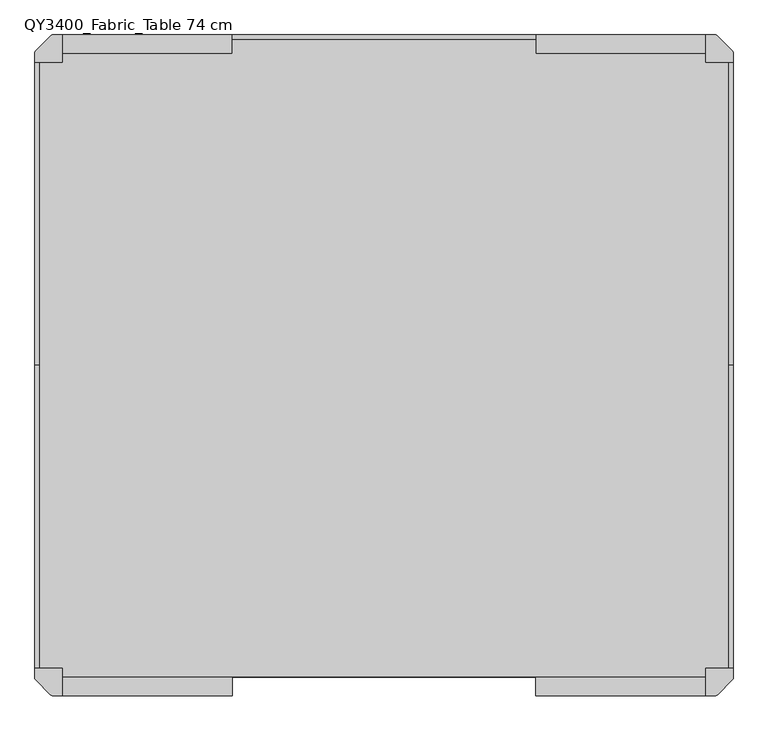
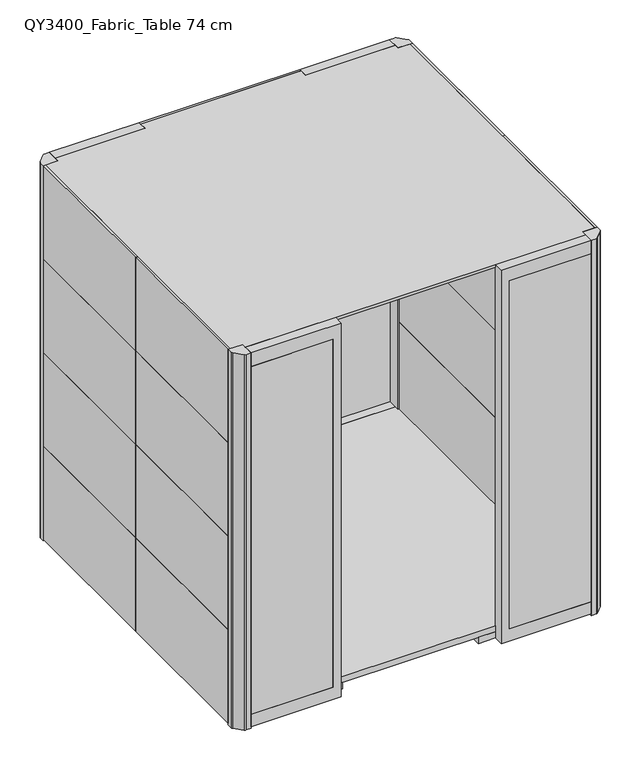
"""IFC4 building model written with IfcOpenShell, lengths in millimetres: furniture geometry, Qyos_400 : QY3400_Fabric_Table 74 cm."""

import ifcopenshell
import ifcopenshell.guid

model = None  # the IFC model being written
_history = None  # IfcOwnerHistory: only IFC2X3 demands one
_inside = {}  # id of a spatial element -> (the spatial element, [elements in it])
_under = {}  # id of a project, library or spatial element -> (it, [spatial elements below it])
_declared = {}  # id of a project -> (the project, [libraries it declares])
_typed = {}  # id of a type object -> (the type object, [elements of that type])
_made_of = {}  # id of a material, layer set ... -> (it, [elements and type objects made of it])


def new_model(schema):
    """Start an empty IFC model of exactly this schema.

    Asked for "IFC4X3", IfcOpenShell would pick the latest addendum, in which some entities
    have other attributes; the version numbers below select the first issue.
    IFC2X3 requires an IfcOwnerHistory on every rooted entity: one is made here for all.
    """
    global model, _history
    if schema == "IFC4X3":
        model = ifcopenshell.file(schema_version=(4, 3, 0, 0))
    else:
        model = ifcopenshell.file(schema=schema)
    _inside.clear()
    _under.clear()
    _declared.clear()
    _typed.clear()
    _made_of.clear()
    _history = None
    if model.schema == "IFC2X3":
        org = make("IfcOrganization", Name="unknown")
        user = make(
            "IfcPersonAndOrganization",
            ThePerson=make("IfcPerson", FamilyName="unknown"),
            TheOrganization=org,
        )
        app = make(
            "IfcApplication",
            ApplicationDeveloper=org,
            Version="unknown",
            ApplicationFullName="unknown",
            ApplicationIdentifier="unknown",
        )
        _history = make(
            "IfcOwnerHistory",
            OwningUser=user,
            OwningApplication=app,
            ChangeAction="ADDED",
            CreationDate=0,
        )
    return model


def make(cls, **values):
    """One entity of the class cls with the attributes given. An attribute that is None is left unset."""
    return model.create_entity(
        cls, **{name: value for name, value in values.items() if value is not None}
    )


def rooted(cls, **values):
    """An entity with a GlobalId (a new one), such as an element, a storey or a relation."""
    return make(cls, GlobalId=ifcopenshell.guid.new(), OwnerHistory=_history, **values)


def si_unit(unit_type, name, prefix=None):
    """IfcSIUnit, for example si_unit("LENGTHUNIT", "METRE", prefix="MILLI")."""
    return make("IfcSIUnit", UnitType=unit_type, Prefix=prefix, Name=name)


def assignment(units):
    """IfcUnitAssignment: the units of a project."""
    return None if units is None else make("IfcUnitAssignment", Units=units)


def point(xyz):
    """IfcCartesianPoint."""
    return None if xyz is None else make("IfcCartesianPoint", Coordinates=xyz)


def direction(xyz):
    """IfcDirection."""
    return None if xyz is None else make("IfcDirection", DirectionRatios=xyz)


def frame(location, z_axis=None, x_axis=None):
    """IfcAxis2Placement3D, a coordinate frame: its origin and axes. An axis left out is left unset."""
    return make(
        "IfcAxis2Placement3D",
        Location=point(location),
        Axis=direction(z_axis),
        RefDirection=direction(x_axis),
    )


def frame_2d(location, x_axis=None):
    """IfcAxis2Placement2D, a coordinate frame in the plane: its origin and x axis."""
    return make(
        "IfcAxis2Placement2D", Location=point(location), RefDirection=direction(x_axis)
    )


def origin():
    """The frame at (0, 0, 0) with its axes left unset."""
    return frame((0.0, 0.0, 0.0))


def origin_with_axes():
    """The frame at (0, 0, 0) with the z axis (0, 0, 1) and the x axis (1, 0, 0) written out."""
    return frame((0.0, 0.0, 0.0), z_axis=(0.0, 0.0, 1.0), x_axis=(1.0, 0.0, 0.0))


def place(relative_to, where):
    """IfcLocalPlacement: puts the frame where relative to a parent placement (None: the world)."""
    return make(
        "IfcLocalPlacement", PlacementRelTo=relative_to, RelativePlacement=where
    )


def context(
    kind, dimensions, precision=None, world=None, true_north=None, identifier=None
):
    """IfcGeometricRepresentationContext, for example the 3D "Model" context."""
    return make(
        "IfcGeometricRepresentationContext",
        ContextIdentifier=identifier,
        ContextType=kind,
        CoordinateSpaceDimension=dimensions,
        Precision=precision,
        WorldCoordinateSystem=world,
        TrueNorth=true_north,
    )


def project(units=None, contexts=None):
    """IfcProject with its units and contexts."""
    return rooted(
        "IfcProject",
        Name="project",
        RepresentationContexts=contexts,
        UnitsInContext=assignment(units),
    )


def spatial(cls, under=None, at=None, **own):
    """A site, building, storey or space (cls), placed at a placement, below another one or the project."""
    s = rooted(cls, ObjectPlacement=at, **own)
    if under is not None:
        _under.setdefault(under.id(), (under, []))[1].append(s)
    return s


def polyline(points):
    """IfcPolyline through the points."""
    return make("IfcPolyline", Points=[point(p) for p in points])


def circle_curve(where, radius):
    """IfcCircle in the frame where."""
    return make("IfcCircle", Position=where, Radius=radius)


def trimmed(basis, trim1, trim2, sense, master):
    """IfcTrimmedCurve: the piece of a basis curve between two trims."""
    return make(
        "IfcTrimmedCurve",
        BasisCurve=basis,
        Trim1=trim1,
        Trim2=trim2,
        SenseAgreement=sense,
        MasterRepresentation=master,
    )


def segment(curve, same_sense, transition):
    """IfcCompositeCurveSegment."""
    return make(
        "IfcCompositeCurveSegment",
        Transition=transition,
        SameSense=same_sense,
        ParentCurve=curve,
    )


def composite_curve(segments, self_intersect=None):
    """IfcCompositeCurve: segments joined end to end."""
    return make("IfcCompositeCurve", Segments=segments, SelfIntersect=self_intersect)


def outline(outer, holes=None, kind="AREA"):
    """IfcArbitraryClosedProfileDef: a profile drawn as a closed curve; with holes, ...WithVoids."""
    if holes is None:
        return make("IfcArbitraryClosedProfileDef", ProfileType=kind, OuterCurve=outer)
    return make(
        "IfcArbitraryProfileDefWithVoids",
        ProfileType=kind,
        OuterCurve=outer,
        InnerCurves=holes,
    )


def extrude(swept, where, along, depth):
    """IfcExtrudedAreaSolid: the profile swept, set in the frame where, extruded along a direction by depth."""
    return make(
        "IfcExtrudedAreaSolid",
        SweptArea=swept,
        Position=where,
        ExtrudedDirection=direction(along),
        Depth=depth,
    )


def shape(context_of_items, identifier, shape_type, items):
    """IfcShapeRepresentation: the items that make up one representation, for example the "Body"."""
    return make(
        "IfcShapeRepresentation",
        ContextOfItems=context_of_items,
        RepresentationIdentifier=identifier,
        RepresentationType=shape_type,
        Items=items,
    )


def source(mapping_origin, context_of_items, identifier, shape_type, items):
    """IfcRepresentationMap: a shape defined once, which mapped items show again and again."""
    return make(
        "IfcRepresentationMap",
        MappingOrigin=mapping_origin,
        MappedRepresentation=shape(context_of_items, identifier, shape_type, items),
    )


def transform(
    local_origin,
    x_axis=None,
    y_axis=None,
    z_axis=None,
    scale=None,
    scale2=None,
    scale3=None,
    uniform=True,
):
    """IfcCartesianTransformationOperator3D, or its non-uniform kind. x_axis, y_axis, z_axis: its Axis1, 2, 3."""
    if uniform:
        return make(
            "IfcCartesianTransformationOperator3D",
            Axis1=direction(x_axis),
            Axis2=direction(y_axis),
            LocalOrigin=point(local_origin),
            Scale=scale,
            Axis3=direction(z_axis),
        )
    return make(
        "IfcCartesianTransformationOperator3DnonUniform",
        Axis1=direction(x_axis),
        Axis2=direction(y_axis),
        LocalOrigin=point(local_origin),
        Scale=scale,
        Axis3=direction(z_axis),
        Scale2=scale2,
        Scale3=scale3,
    )


def mapped(mapping_source, mapping_target):
    """IfcMappedItem: shows the shape of a source again, moved by a transform."""
    return make(
        "IfcMappedItem", MappingSource=mapping_source, MappingTarget=mapping_target
    )


def made_of(thing, what):
    """Note that an element or type object is made of a material, layer set ...; save() writes the relation."""
    if what is not None:
        _made_of.setdefault(what.id(), (what, []))[1].append(thing)
    return thing


def element(
    cls,
    number,
    at=None,
    inside=None,
    cuts=None,
    type_object=None,
    material=None,
    context=None,
    identifier="Body",
    shape_type=None,
    held_by="IfcProductDefinitionShape",
    body=None,
    shapes=None,
    **own,
):
    """One element of the class cls, such as IfcWall. Its Tag is "e" and its number.

    at: its placement. inside: the storey or other place that contains it. cuts: it is an
    opening in that element (IfcRelVoidsElement). A single representation is given by context,
    identifier, shape_type and body (its items); several are given by shapes. held_by: the class
    of the entity that holds the representations. save() writes the other relations.
    """
    e = rooted(cls, Tag="e%d" % number, ObjectPlacement=at, **own)
    if body is not None:
        shapes = [shape(context, identifier, shape_type, body)]
    if shapes is not None:
        e.Representation = make(held_by, Representations=shapes)
    if inside is not None:
        _inside.setdefault(inside.id(), (inside, []))[1].append(e)
    if cuts is not None:
        rooted(
            "IfcRelVoidsElement", RelatingBuildingElement=cuts, RelatedOpeningElement=e
        )
    if type_object is not None:
        _typed.setdefault(type_object.id(), (type_object, []))[1].append(e)
    return made_of(e, material)


def aggregate(whole, parts):
    """IfcRelAggregates: a whole, such as a stair, and the parts it consists of."""
    return rooted("IfcRelAggregates", RelatingObject=whole, RelatedObjects=parts)


def save(model, path):
    """Write the relations noted so far, then the file.

    IfcRelAggregates (storeys below a building ...), IfcRelContainedInSpatialStructure (elements
    in a storey), IfcRelDefinesByType, IfcRelAssociatesMaterial and IfcRelDeclares: one each for
    every whole, place, type object, material and project.
    """
    for whole, parts in _under.values():
        aggregate(whole, parts)
    for where, things in _inside.values():
        rooted(
            "IfcRelContainedInSpatialStructure",
            RelatedElements=things,
            RelatingStructure=where,
        )
    for kind, things in _typed.values():
        rooted("IfcRelDefinesByType", RelatedObjects=things, RelatingType=kind)
    for what, things in _made_of.values():
        rooted("IfcRelAssociatesMaterial", RelatedObjects=things, RelatingMaterial=what)
    for by, libraries in _declared.values():
        rooted("IfcRelDeclares", RelatingContext=by, RelatedDefinitions=libraries)
    model.write(path)


def plane_surface(at):
    """IfcPlane: the flat surface through the origin of the frame at, square to its z axis."""
    return make("IfcPlane", Position=at)


def cylinder_surface(at, radius):
    """IfcCylindricalSurface: all points at the distance radius from the z axis of the frame at."""
    return make("IfcCylindricalSurface", Position=at, Radius=radius)


def advanced_brep(points, edges, surfaces, faces):
    """IfcAdvancedBrep: a solid bounded by faces that lie on surfaces and meet in shared edges.

    An edge is (start, end): straight between two places in points (the first is 0);
    or (start, end, curve); or (start, end, curve, False) where it runs against its curve.
    A face is (place in surfaces, loops), or (place, loops, False) where it looks against
    its surface's normal. A loop lists edges by number (the first is 1), with a minus sign
    where the edge is run from its end to its start. The first loop is the outer one.
    """
    corners = [point(p) for p in points]
    vertices = [make("IfcVertexPoint", VertexGeometry=c) for c in corners]
    made = []
    for start, end, *more in edges:
        made.append(
            make(
                "IfcEdgeCurve",
                EdgeStart=vertices[start],
                EdgeEnd=vertices[end],
                EdgeGeometry=more[0] if more else make("IfcPolyline", Points=[corners[start], corners[end]]),
                SameSense=more[1] if len(more) > 1 else True,
            )
        )
    hull = []
    for where, loops, *sense in faces:
        bounds = []
        for j, loop in enumerate(loops):
            ring = [make("IfcOrientedEdge", EdgeElement=made[abs(k) - 1], Orientation=k > 0) for k in loop]
            bounds.append(
                make(
                    "IfcFaceOuterBound" if j == 0 else "IfcFaceBound",
                    Bound=make("IfcEdgeLoop", EdgeList=ring),
                    Orientation=True,
                )
            )
        hull.append(make("IfcAdvancedFace", Bounds=bounds, FaceSurface=surfaces[where], SameSense=sense[0] if sense else True))
    return make("IfcAdvancedBrep", Outer=make("IfcClosedShell", CfsFaces=hull))


def qy3400_fabric_table_74_cm_65a14c29(model_context):
    return source(origin(), model_context, "Body", "SolidModel", [
        advanced_brep(
        [(853.8585356, 827.0, 0.0), (900.1414644, 827.0, 0.0), (877.0, 827.0, 0.0), (853.8585356, 827.0, 7.0), (900.1414644, 827.0, 7.0), (867.3615446, 827.0, 7.0), (886.6384554, 827.0, 7.0), (867.3615446, 827.0, 17.0), (886.6384554, 827.0, 17.0), (877.0, 827.0, 17.0)],
        [
            (0, 1, circle_curve(frame((877.0, 827.0, 0.0), z_axis=(0.0, 0.0, -1.0), x_axis=(1.0, 0.0, 0.0)), 23.1414644)),
            (1, 2),
            (2, 0),
            (1, 0, circle_curve(frame((877.0, 827.0, 0.0), z_axis=(0.0, 0.0, -1.0), x_axis=(1.0, 0.0, 0.0)), 23.1414644)),
            (3, 4, circle_curve(frame((877.0, 827.0, 7.0), z_axis=(0.0, 0.0, -1.0), x_axis=(1.0, 0.0, 0.0)), 23.1414644)),
            (4, 1),
            (0, 3),
            (4, 3, circle_curve(frame((877.0, 827.0, 7.0), z_axis=(0.0, 0.0, -1.0), x_axis=(1.0, 0.0, 0.0)), 23.1414644)),
            (5, 6, circle_curve(frame((877.0, 827.0, 7.0), z_axis=(0.0, 0.0, -1.0), x_axis=(1.0, 0.0, 0.0)), 9.6384554)),
            (6, 4),
            (3, 5),
            (6, 5, circle_curve(frame((877.0, 827.0, 7.0), z_axis=(0.0, 0.0, -1.0), x_axis=(1.0, 0.0, 0.0)), 9.6384554)),
            (7, 8, circle_curve(frame((877.0, 827.0, 17.0), z_axis=(0.0, 0.0, -1.0), x_axis=(1.0, 0.0, 0.0)), 9.6384554)),
            (8, 6),
            (5, 7),
            (8, 7, circle_curve(frame((877.0, 827.0, 17.0), z_axis=(0.0, 0.0, -1.0), x_axis=(1.0, 0.0, 0.0)), 9.6384554)),
            (9, 8),
            (7, 9),
        ],
        [
            plane_surface(frame((877.0, 827.0, 0.0), z_axis=(0.0, 0.0, -1.0), x_axis=(1.0, 0.0, 0.0))),
            cylinder_surface(frame((877.0, 827.0, 1997.4144888), z_axis=(0.0, 0.0, 1.0), x_axis=(1.0, 0.0, 0.0)), 23.1414644),
            plane_surface(frame((877.0, 827.0, 7.0), z_axis=(0.0, 0.0, 1.0), x_axis=(1.0, 0.0, 0.0))),
            cylinder_surface(frame((877.0, 827.0, 1997.4144888), z_axis=(0.0, 0.0, 1.0), x_axis=(1.0, 0.0, 0.0)), 9.6384554),
            plane_surface(frame((877.0, 827.0, 17.0), z_axis=(0.0, 0.0, 1.0), x_axis=(1.0, 0.0, 0.0))),
        ],
        [
            (0, [[1, 2, 3]]),
            (0, [[4, -3, -2]]),
            (1, [[5, 6, -1, 7]]),
            (1, [[8, -7, -4, -6]]),
            (2, [[9, 10, -5, 11]]),
            (2, [[12, -11, -8, -10]]),
            (3, [[13, 14, -9, 15]]),
            (3, [[16, -15, -12, -14]]),
            (4, [[17, -13, 18]]),
            (4, [[-18, -16, -17]]),
        ],
    ),
        extrude(outline(composite_curve([segment(trimmed(circle_curve(frame_2d((877.0, 827.0)), 23.1414644), [point((853.8585356, 827.0))], [point((900.1414644, 827.0))], False, "CARTESIAN"), True, "CONTINUOUS"), segment(trimmed(circle_curve(frame_2d((877.0, 827.0)), 23.1414644), [point((900.1414644, 827.0))], [point((853.8585356, 827.0))], False, "CARTESIAN"), True, "CONTINUOUS")], self_intersect=False)), origin_with_axes(), (0.0, 0.0, 1.0), 7.0),
        extrude(outline(composite_curve([segment(polyline([(-945.0, 890.0), (-1025.0, 890.0), (-1025.0, 917.5536246)]), True, "CONTINUOUS"), segment(trimmed(circle_curve(frame_2d((-1013.0024364, 917.3118252)), 12.0), [point((-1025.0, 917.5536246))], [point((-1021.7960176, 925.4771745))], False, "CARTESIAN"), True, "CONTINUOUS"), segment(trimmed(circle_curve(frame_2d((-443.4303831, 388.431197)), 789.2560985), [point((-1021.7960176, 925.4771745))], [point((-980.4763607, 966.7968315))], False, "CARTESIAN"), True, "CONTINUOUS"), segment(trimmed(circle_curve(frame_2d((-972.3110114, 958.0032502)), 12.0), [point((-980.4763607, 966.7968315))], [point((-972.5902872, 970.0))], False, "CARTESIAN"), True, "CONTINUOUS"), segment(polyline([(-972.5902872, 970.0), (-945.0, 970.0), (-945.0, 890.0)]), True, "CONTINUOUS")], self_intersect=False)), origin_with_axes(), (0.0, 0.0, 1.0), 2202.1),
        extrude(outline(composite_curve([segment(polyline([(945.0, 890.0), (945.0, 970.0), (972.5536246, 970.0)]), True, "CONTINUOUS"), segment(trimmed(circle_curve(frame_2d((972.3118252, 958.0024364)), 12.0), [point((972.5536246, 970.0))], [point((980.4771745, 966.7960176))], False, "CARTESIAN"), True, "CONTINUOUS"), segment(trimmed(circle_curve(frame_2d((443.431197, 388.4303831)), 789.2560985), [point((980.4771745, 966.7960176))], [point((1021.7968315, 925.4763607))], False, "CARTESIAN"), True, "CONTINUOUS"), segment(trimmed(circle_curve(frame_2d((1013.0032502, 917.3110114)), 12.0), [point((1021.7968315, 925.4763607))], [point((1025.0, 917.5902872))], False, "CARTESIAN"), True, "CONTINUOUS"), segment(polyline([(1025.0, 917.5902872), (1025.0, 890.0), (945.0, 890.0)]), True, "CONTINUOUS")], self_intersect=False)), origin_with_axes(), (0.0, 0.0, 1.0), 2202.1),
        extrude(outline(composite_curve([segment(polyline([(945.0, -890.0), (1025.0, -890.0), (1025.0, -917.5536246)]), True, "CONTINUOUS"), segment(trimmed(circle_curve(frame_2d((1013.0024364, -917.3118252)), 12.0), [point((1025.0, -917.5536246))], [point((1021.7960176, -925.4771745))], False, "CARTESIAN"), True, "CONTINUOUS"), segment(trimmed(circle_curve(frame_2d((443.4303831, -388.431197)), 789.2560985), [point((1021.7960176, -925.4771745))], [point((980.4763607, -966.7968315))], False, "CARTESIAN"), True, "CONTINUOUS"), segment(trimmed(circle_curve(frame_2d((972.3110114, -958.0032502)), 12.0), [point((980.4763607, -966.7968315))], [point((972.5902872, -970.0))], False, "CARTESIAN"), True, "CONTINUOUS"), segment(polyline([(972.5902872, -970.0), (945.0, -970.0), (945.0, -890.0)]), True, "CONTINUOUS")], self_intersect=False)), origin_with_axes(), (0.0, 0.0, 1.0), 2202.1),
        extrude(outline(composite_curve([segment(polyline([(-945.0, -890.0), (-945.0, -970.0), (-972.5536246, -970.0)]), True, "CONTINUOUS"), segment(trimmed(circle_curve(frame_2d((-972.3118252, -958.0024364)), 12.0), [point((-972.5536246, -970.0))], [point((-980.4771745, -966.7960176))], False, "CARTESIAN"), True, "CONTINUOUS"), segment(trimmed(circle_curve(frame_2d((-443.431197, -388.4303831)), 789.2560985), [point((-980.4771745, -966.7960176))], [point((-1021.7968315, -925.4763607))], False, "CARTESIAN"), True, "CONTINUOUS"), segment(trimmed(circle_curve(frame_2d((-1013.0032502, -917.3110114)), 12.0), [point((-1021.7968315, -925.4763607))], [point((-1025.0, -917.5902872))], False, "CARTESIAN"), True, "CONTINUOUS"), segment(polyline([(-1025.0, -917.5902872), (-1025.0, -890.0), (-945.0, -890.0)]), True, "CONTINUOUS")], self_intersect=False)), origin_with_axes(), (0.0, 0.0, 1.0), 2202.1),
        extrude(outline(polyline([(-445.0, 915.0), (-445.0, 956.0), (445.0, 956.0), (445.0, 915.0), (945.0, 915.0), (945.0, 890.0), (1011.0, 890.0), (1011.0, -890.0), (945.0, -890.0), (945.0, -914.9956819), (-945.0, -914.9956819), (-945.0, -890.0), (-1011.0, -890.0), (-1011.0, 890.0), (-945.0, 890.0), (-945.0, 915.0), (-445.0, 915.0)])), frame((0.0, 0.0, 2186.1), z_axis=(0.0, 0.0, 1.0), x_axis=(1.0, 0.0, 0.0)), (0.0, 0.0, 1.0), 16.0),
        extrude(outline(polyline([(-1025.0, -890.0), (-1025.0, 0.0), (-1011.0, 0.0), (-1011.0, -890.0), (-1025.0, -890.0)])), frame((0.0, 0.0, 10.0), z_axis=(0.0, 0.0, 1.0), x_axis=(1.0, 0.0, 0.0)), (0.0, 0.0, 1.0), 548.0116287),
        extrude(outline(polyline([(1025.0, -890.0), (1011.0, -890.0), (1011.0, 0.0), (1025.0, 0.0), (1025.0, -890.0)])), frame((0.0, 0.0, 10.0), z_axis=(0.0, 0.0, 1.0), x_axis=(1.0, 0.0, 0.0)), (0.0, 0.0, 1.0), 548.0116287),
        extrude(outline(polyline([(-1025.0, -890.0), (-1025.0, 0.0), (-1011.0, 0.0), (-1011.0, -890.0), (-1025.0, -890.0)])), frame((0.0, 0.0, 558.0116287), z_axis=(0.0, 0.0, 1.0), x_axis=(1.0, 0.0, 0.0)), (0.0, 0.0, 1.0), 548.0),
        extrude(outline(polyline([(1025.0, -890.0), (1011.0, -890.0), (1011.0, 0.0), (1025.0, 0.0), (1025.0, -890.0)])), frame((0.0, 0.0, 558.0116287), z_axis=(0.0, 0.0, 1.0), x_axis=(1.0, 0.0, 0.0)), (0.0, 0.0, 1.0), 548.0),
        extrude(outline(polyline([(-1025.0, -890.0), (-1025.0, 0.0), (-1011.0, 0.0), (-1011.0, -890.0), (-1025.0, -890.0)])), frame((0.0, 0.0, 1106.0116287), z_axis=(0.0, 0.0, 1.0), x_axis=(1.0, 0.0, 0.0)), (0.0, 0.0, 1.0), 548.0),
        extrude(outline(polyline([(1025.0, -890.0), (1011.0, -890.0), (1011.0, 0.0), (1025.0, 0.0), (1025.0, -890.0)])), frame((0.0, 0.0, 1106.0116287), z_axis=(0.0, 0.0, 1.0), x_axis=(1.0, 0.0, 0.0)), (0.0, 0.0, 1.0), 548.0),
        extrude(outline(polyline([(-1025.0, -890.0), (-1025.0, 0.0), (-1011.0, 0.0), (-1011.0, -890.0), (-1025.0, -890.0)])), frame((0.0, 0.0, 1654.0116287), z_axis=(0.0, 0.0, 1.0), x_axis=(1.0, 0.0, 0.0)), (0.0, 0.0, 1.0), 548.0883713),
        extrude(outline(polyline([(1025.0, -890.0), (1011.0, -890.0), (1011.0, 0.0), (1025.0, 0.0), (1025.0, -890.0)])), frame((0.0, 0.0, 1654.0116287), z_axis=(0.0, 0.0, 1.0), x_axis=(1.0, 0.0, 0.0)), (0.0, 0.0, 1.0), 548.0883713),
        extrude(outline(polyline([(-1025.0, 0.0), (-1025.0, 890.0), (-1011.0, 890.0), (-1011.0, 0.0), (-1025.0, 0.0)])), frame((0.0, 0.0, 1654.0116287), z_axis=(0.0, 0.0, 1.0), x_axis=(1.0, 0.0, 0.0)), (0.0, 0.0, 1.0), 548.0883713),
        extrude(outline(polyline([(1025.0, 0.0), (1011.0, 0.0), (1011.0, 890.0), (1025.0, 890.0), (1025.0, 0.0)])), frame((0.0, 0.0, 1654.0116287), z_axis=(0.0, 0.0, 1.0), x_axis=(1.0, 0.0, 0.0)), (0.0, 0.0, 1.0), 548.0883713),
        extrude(outline(polyline([(445.0557256, 970.0), (445.0557256, 956.0), (-445.0, 956.0), (-445.0, 970.0), (445.0557256, 970.0)])), frame((0.0, 0.0, 1654.0116287), z_axis=(0.0, 0.0, 1.0), x_axis=(1.0, 0.0, 0.0)), (0.0, 0.0, 1.0), 548.0883713),
        extrude(outline(polyline([(-945.0, 970.0), (-490.0089845, 970.0), (-490.0089845, 965.0), (-945.0, 965.0), (-945.0, 970.0)])), frame((0.0, 0.0, 82.0), z_axis=(0.0, 0.0, 1.0), x_axis=(1.0, 0.0, 0.0)), (0.0, 0.0, 1.0), 2040.1),
        extrude(outline(polyline([(490.0089845, 970.0), (945.0, 970.0), (945.0, 965.0), (490.0089845, 965.0), (490.0089845, 970.0)])), frame((0.0, 0.0, 82.0), z_axis=(0.0, 0.0, 1.0), x_axis=(1.0, 0.0, 0.0)), (0.0, 0.0, 1.0), 2040.1),
        extrude(outline(polyline([(2122.1, -490.0089845), (82.0, -490.0089845), (82.0, -945.0), (10.0, -945.0), (10.0, -445.0), (2202.1, -445.0), (2202.1, -945.0), (2122.1, -945.0), (2122.1, -490.0089845)])), frame((0.0, 915.0, 0.0), z_axis=(0.0, 1.0, 0.0), x_axis=(0.0, 0.0, 1.0)), (0.0, 0.0, 1.0), 55.0),
        extrude(outline(polyline([(2122.1, 490.0089845), (2122.1, 945.0), (2202.1, 945.0), (2202.1, 445.0), (10.0, 445.0), (10.0, 945.0), (82.0, 945.0), (82.0, 490.0089845), (2122.1, 490.0089845)])), frame((0.0, 915.0, 0.0), z_axis=(0.0, 1.0, 0.0), x_axis=(0.0, 0.0, 1.0)), (0.0, 0.0, 1.0), 55.0),
        extrude(outline(polyline([(-490.0089845, -970.0), (-945.0, -970.0), (-945.0, -965.0), (-490.0089845, -965.0), (-490.0089845, -970.0)])), frame((0.0, 0.0, 82.0), z_axis=(0.0, 0.0, 1.0), x_axis=(1.0, 0.0, 0.0)), (0.0, 0.0, 1.0), 2040.1),
        extrude(outline(polyline([(945.0, -970.0), (490.0089845, -970.0), (490.0089845, -965.0), (945.0, -965.0), (945.0, -970.0)])), frame((0.0, 0.0, 82.0), z_axis=(0.0, 0.0, 1.0), x_axis=(1.0, 0.0, 0.0)), (0.0, 0.0, 1.0), 2040.1),
        extrude(outline(polyline([(-857.0, -914.9956819), (-897.0, -914.9956819), (-897.0, 915.0), (-857.0, 915.0), (-857.0, -914.9956819)])), frame((0.0, 0.0, 10.0), z_axis=(0.0, 0.0, 1.0), x_axis=(1.0, 0.0, 0.0)), (0.0, 0.0, 1.0), 37.0),
        extrude(outline(polyline([(-405.0, -914.9956819), (-445.0, -914.9956819), (-445.0, 915.0), (-405.0, 915.0), (-405.0, -914.9956819)])), frame((0.0, 0.0, 10.0), z_axis=(0.0, 0.0, 1.0), x_axis=(1.0, 0.0, 0.0)), (0.0, 0.0, 1.0), 37.0),
        extrude(outline(polyline([(897.0, -914.9956819), (857.0, -914.9956819), (857.0, 915.0), (897.0, 915.0), (897.0, -914.9956819)])), frame((0.0, 0.0, 10.0), z_axis=(0.0, 0.0, 1.0), x_axis=(1.0, 0.0, 0.0)), (0.0, 0.0, 1.0), 37.0),
        extrude(outline(polyline([(349.5486306, 915.0), (445.0557256, 915.0), (445.0557256, -914.9956819), (349.5486306, -914.9956819), (349.5486306, 915.0)])), frame((0.0, 0.0, 10.0), z_axis=(0.0, 0.0, 1.0), x_axis=(1.0, 0.0, 0.0)), (0.0, 0.0, 1.0), 37.0),
        extrude(outline(polyline([(2122.1, -490.0089845), (82.0, -490.0089845), (82.0, -945.0), (10.0, -945.0), (10.0, -445.0), (2202.1, -445.0), (2202.1, -945.0), (2122.1, -945.0), (2122.1, -490.0089845)])), frame((0.0, -970.0, 0.0), z_axis=(0.0, 1.0, 0.0), x_axis=(0.0, 0.0, 1.0)), (0.0, 0.0, 1.0), 55.0043181),
        extrude(outline(polyline([(2122.1, 490.0089845), (2122.1, 945.0), (2202.1, 945.0), (2202.1, 445.0), (10.0, 445.0), (10.0, 945.0), (82.0, 945.0), (82.0, 490.0089845), (2122.1, 490.0089845)])), frame((0.0, -970.0, 0.0), z_axis=(0.0, 1.0, 0.0), x_axis=(0.0, 0.0, 1.0)), (0.0, 0.0, 1.0), 55.0043181),
        extrude(outline(polyline([(-951.0, 890.0), (-945.0, 890.0), (-945.0, 915.0), (945.0, 915.0), (945.0, 890.0), (951.0, 890.0), (951.0, -890.0), (945.0, -890.0), (945.0, -914.9956819), (-945.0, -914.9956819), (-945.0, -890.0), (-951.0, -890.0), (-951.0, 890.0)])), frame((0.0, 0.0, 47.0), z_axis=(0.0, 0.0, 1.0), x_axis=(1.0, 0.0, 0.0)), (0.0, 0.0, 1.0), 35.0),
        extrude(outline(polyline([(970.0, -889.9498873), (951.0, -889.9498873), (951.0, 890.0024364), (970.0, 890.0024364), (970.0, -889.9498873)])), frame((0.0, 0.0, 1617.9823403), z_axis=(0.0, 0.0, 1.0), x_axis=(1.0, 0.0, 0.0)), (0.0, 0.0, 1.0), 504.1176597),
        extrude(outline(polyline([(-970.0, -890.0), (-970.0, 890.0), (-951.0, 890.0), (-951.0, -890.0), (-970.0, -890.0)])), frame((0.0, 0.0, 1617.9823403), z_axis=(0.0, 0.0, 1.0), x_axis=(1.0, 0.0, 0.0)), (0.0, 0.0, 1.0), 504.1176597),
        extrude(outline(polyline([(-445.0, 915.0), (-445.0, 934.0), (445.0557256, 934.0), (445.0557256, 915.0), (-445.0, 915.0)])), frame((0.0, 0.0, 1617.9823403), z_axis=(0.0, 0.0, 1.0), x_axis=(1.0, 0.0, 0.0)), (0.0, 0.0, 1.0), 504.1176597),
        extrude(outline(polyline([(970.0, -890.0), (951.0, -890.0), (951.0, 890.0), (970.0, 890.0), (970.0, -890.0)])), frame((0.0, 0.0, 1106.0116287), z_axis=(0.0, 0.0, 1.0), x_axis=(1.0, 0.0, 0.0)), (0.0, 0.0, 1.0), 511.9707116),
        extrude(outline(polyline([(-970.0, -890.0), (-970.0, 890.0), (-951.0, 890.0), (-951.0, -890.0), (-970.0, -890.0)])), frame((0.0, 0.0, 1106.0116287), z_axis=(0.0, 0.0, 1.0), x_axis=(1.0, 0.0, 0.0)), (0.0, 0.0, 1.0), 511.9707116),
        extrude(outline(polyline([(-445.0, 915.0), (-445.0, 934.0), (445.0557256, 934.0), (445.0557256, 915.0), (-445.0, 915.0)])), frame((0.0, 0.0, 1106.0116287), z_axis=(0.0, 0.0, 1.0), x_axis=(1.0, 0.0, 0.0)), (0.0, 0.0, 1.0), 511.9707116),
        extrude(outline(polyline([(970.0, -890.0), (951.0, -890.0), (951.0, 890.0), (970.0, 890.0), (970.0, -890.0)])), frame((0.0, 0.0, 593.9823403), z_axis=(0.0, 0.0, 1.0), x_axis=(1.0, 0.0, 0.0)), (0.0, 0.0, 1.0), 512.0292884),
        extrude(outline(polyline([(-970.0, -890.0), (-970.0, 890.0), (-951.0, 890.0), (-951.0, -890.0), (-970.0, -890.0)])), frame((0.0, 0.0, 593.9823403), z_axis=(0.0, 0.0, 1.0), x_axis=(1.0, 0.0, 0.0)), (0.0, 0.0, 1.0), 512.0292884),
        extrude(outline(polyline([(-445.0, 915.0), (-445.0, 934.0), (445.0557256, 934.0), (445.0557256, 915.0), (-445.0, 915.0)])), frame((0.0, 0.0, 593.9823403), z_axis=(0.0, 0.0, 1.0), x_axis=(1.0, 0.0, 0.0)), (0.0, 0.0, 1.0), 512.0292884),
        extrude(outline(polyline([(970.0, -890.0), (951.0, -890.0), (951.0, 890.0), (970.0, 890.0), (970.0, -890.0)])), frame((0.0, 0.0, 77.0), z_axis=(0.0, 0.0, 1.0), x_axis=(1.0, 0.0, 0.0)), (0.0, 0.0, 1.0), 516.9823403),
        extrude(outline(polyline([(-970.0, -890.0), (-970.0, 890.0), (-951.0, 890.0), (-951.0, -890.0), (-970.0, -890.0)])), frame((0.0, 0.0, 77.0), z_axis=(0.0, 0.0, 1.0), x_axis=(1.0, 0.0, 0.0)), (0.0, 0.0, 1.0), 516.9823403),
        extrude(outline(polyline([(-445.0, 915.0), (-445.0, 934.0), (445.0557256, 934.0), (445.0557256, 915.0), (-445.0, 915.0)])), frame((0.0, 0.0, 77.0), z_axis=(0.0, 0.0, 1.0), x_axis=(1.0, 0.0, 0.0)), (0.0, 0.0, 1.0), 516.9823403),
        extrude(outline(polyline([(-1025.0, 0.0), (-1025.0, 890.0), (-1011.0, 890.0), (-1011.0, 0.0), (-1025.0, 0.0)])), frame((0.0, 0.0, 1106.0116287), z_axis=(0.0, 0.0, 1.0), x_axis=(1.0, 0.0, 0.0)), (0.0, 0.0, 1.0), 548.0),
        extrude(outline(polyline([(1025.0, 0.0), (1011.0, 0.0), (1011.0, 890.0), (1025.0, 890.0), (1025.0, 0.0)])), frame((0.0, 0.0, 1106.0116287), z_axis=(0.0, 0.0, 1.0), x_axis=(1.0, 0.0, 0.0)), (0.0, 0.0, 1.0), 548.0),
        extrude(outline(polyline([(445.0557256, 970.0), (445.0557256, 956.0), (-445.0, 956.0), (-445.0, 970.0), (445.0557256, 970.0)])), frame((0.0, 0.0, 1106.0116287), z_axis=(0.0, 0.0, 1.0), x_axis=(1.0, 0.0, 0.0)), (0.0, 0.0, 1.0), 548.0),
        extrude(outline(polyline([(-1025.0, 0.0), (-1025.0, 890.0), (-1011.0, 890.0), (-1011.0, 0.0), (-1025.0, 0.0)])), frame((0.0, 0.0, 558.0116287), z_axis=(0.0, 0.0, 1.0), x_axis=(1.0, 0.0, 0.0)), (0.0, 0.0, 1.0), 548.0),
        extrude(outline(polyline([(1025.0, 0.0), (1011.0, 0.0), (1011.0, 890.0), (1025.0, 890.0), (1025.0, 0.0)])), frame((0.0, 0.0, 558.0116287), z_axis=(0.0, 0.0, 1.0), x_axis=(1.0, 0.0, 0.0)), (0.0, 0.0, 1.0), 548.0),
        extrude(outline(polyline([(445.0557256, 970.0), (445.0557256, 956.0), (-445.0, 956.0), (-445.0, 970.0), (445.0557256, 970.0)])), frame((0.0, 0.0, 558.0116287), z_axis=(0.0, 0.0, 1.0), x_axis=(1.0, 0.0, 0.0)), (0.0, 0.0, 1.0), 548.0),
        extrude(outline(polyline([(-1025.0, 0.0), (-1025.0, 890.0), (-1011.0, 890.0), (-1011.0, 0.0), (-1025.0, 0.0)])), frame((0.0, 0.0, 10.0), z_axis=(0.0, 0.0, 1.0), x_axis=(1.0, 0.0, 0.0)), (0.0, 0.0, 1.0), 548.0116287),
        extrude(outline(polyline([(1025.0, 0.0), (1011.0, 0.0), (1011.0, 890.0), (1025.0, 890.0), (1025.0, 0.0)])), frame((0.0, 0.0, 10.0), z_axis=(0.0, 0.0, 1.0), x_axis=(1.0, 0.0, 0.0)), (0.0, 0.0, 1.0), 548.0116287),
        extrude(outline(polyline([(445.0557256, 970.0), (445.0557256, 956.0), (-445.0, 956.0), (-445.0, 970.0), (445.0557256, 970.0)])), frame((0.0, 0.0, 10.0), z_axis=(0.0, 0.0, 1.0), x_axis=(1.0, 0.0, 0.0)), (0.0, 0.0, 1.0), 548.0116287),
    ])


if __name__ == "__main__":
    model = new_model("IFC4")
    model_context = context("Model", 3, world=origin())
    ifc_project = project(units=[si_unit("LENGTHUNIT", "METRE", prefix="MILLI")], contexts=[model_context])
    site = spatial("IfcSite", under=ifc_project)
    building = spatial("IfcBuilding", under=site)
    placement = place(None, origin())
    qy3400_fabric_table_74_cm_shape = qy3400_fabric_table_74_cm_65a14c29(model_context)
    element("IfcFurniture", 1, ObjectType="Qyos_400 : QY3400_Fabric_Table 74 cm", at=placement, inside=building, context=model_context, shape_type="MappedRepresentation", body=[
        mapped(qy3400_fabric_table_74_cm_shape, transform((0.0, 0.0, 0.0), x_axis=(1.0, 0.0, 0.0), y_axis=(0.0, 1.0, 0.0), z_axis=(0.0, 0.0, 1.0))),
    ])
    save(model, "model.ifc")
